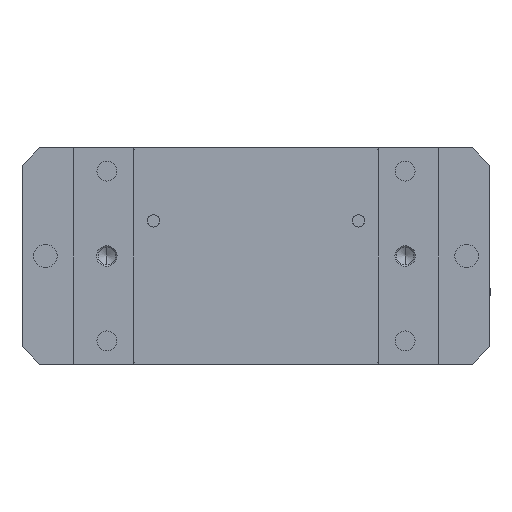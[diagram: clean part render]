
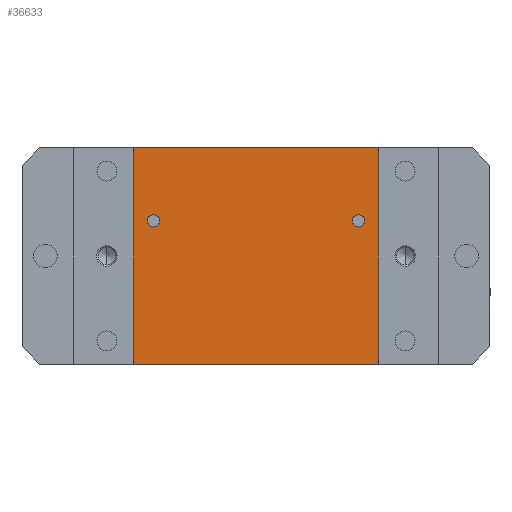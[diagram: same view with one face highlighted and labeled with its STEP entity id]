
A CAD part, front view. The second image highlights one B-rep face of the part: STEP entity #36633.
In plain terms, the highlighted planar face has unit normal (0, -1, 0).
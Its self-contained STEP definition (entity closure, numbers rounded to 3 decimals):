
#116 = CARTESIAN_POINT ( 'NONE',  ( -35., -30., 12. ) ) ;
#222 = DIRECTION ( 'NONE',  ( 0., 0., -1. ) ) ;
#329 = CARTESIAN_POINT ( 'NONE',  ( 35., -30., 9.9 ) ) ;
#522 = AXIS2_PLACEMENT_3D ( 'NONE', #46987, #23637, #222 ) ;
#629 = ORIENTED_EDGE ( 'NONE', *, *, #35697, .T. ) ;
#1421 = AXIS2_PLACEMENT_3D ( 'NONE', #7368, #34621, #11282 ) ;
#2221 = FACE_OUTER_BOUND ( 'NONE', #46229, .T. ) ;
#2375 = CARTESIAN_POINT ( 'NONE',  ( -41., -30., -37. ) ) ;
#2831 = ORIENTED_EDGE ( 'NONE', *, *, #29768, .T. ) ;
#3043 = CARTESIAN_POINT ( 'NONE',  ( -42., -30., 37. ) ) ;
#3654 = ORIENTED_EDGE ( 'NONE', *, *, #20491, .F. ) ;
#4041 = DIRECTION ( 'NONE',  ( 0., 0., -1. ) ) ;
#4266 = LINE ( 'NONE', #17406, #36616 ) ;
#5324 = VECTOR ( 'NONE', #22271, 1000. ) ;
#5585 = ORIENTED_EDGE ( 'NONE', *, *, #42967, .T. ) ;
#5721 = CARTESIAN_POINT ( 'NONE',  ( -41., -30., -37. ) ) ;
#7123 = VERTEX_POINT ( 'NONE', #36574 ) ;
#7156 = DIRECTION ( 'NONE',  ( 0., 0., -1. ) ) ;
#7368 = CARTESIAN_POINT ( 'NONE',  ( 35., -30., 12. ) ) ;
#7411 = CARTESIAN_POINT ( 'NONE',  ( 41., -30., 37. ) ) ;
#8671 = CARTESIAN_POINT ( 'NONE',  ( -35., -30., 9.9 ) ) ;
#9874 = VERTEX_POINT ( 'NONE', #33173 ) ;
#10607 = VERTEX_POINT ( 'NONE', #329 ) ;
#11282 = DIRECTION ( 'NONE',  ( 0., 0., -1. ) ) ;
#13170 = CARTESIAN_POINT ( 'NONE',  ( 42., -30., -36. ) ) ;
#13899 = CIRCLE ( 'NONE', #39308, 2.1 ) ;
#15009 = VERTEX_POINT ( 'NONE', #49829 ) ;
#16250 = DIRECTION ( 'NONE',  ( 1., 0., 0. ) ) ;
#16508 = CARTESIAN_POINT ( 'NONE',  ( 35., -30., 12. ) ) ;
#16607 = VECTOR ( 'NONE', #48634, 1000. ) ;
#17200 = CIRCLE ( 'NONE', #522, 2.1 ) ;
#17234 = EDGE_CURVE ( 'NONE', #25942, #41088, #45624, .T. ) ;
#17406 = CARTESIAN_POINT ( 'NONE',  ( 42., -30., -36. ) ) ;
#17424 = LINE ( 'NONE', #3043, #46106 ) ;
#18137 = EDGE_LOOP ( 'NONE', ( #26042, #2831 ) ) ;
#18168 = LINE ( 'NONE', #25733, #27333 ) ;
#19126 = LINE ( 'NONE', #2375, #38637 ) ;
#19129 = VECTOR ( 'NONE', #16250, 1000. ) ;
#19504 = VERTEX_POINT ( 'NONE', #39189 ) ;
#19611 = VERTEX_POINT ( 'NONE', #8671 ) ;
#19625 = DIRECTION ( 'NONE',  ( 0., 1., 0. ) ) ;
#19795 = CIRCLE ( 'NONE', #48526, 2.1 ) ;
#20235 = EDGE_LOOP ( 'NONE', ( #34141, #629 ) ) ;
#20357 = LINE ( 'NONE', #35667, #19129 ) ;
#20416 = DIRECTION ( 'NONE',  ( 0., 0., -1. ) ) ;
#20491 = EDGE_CURVE ( 'NONE', #38996, #9874, #4266, .T. ) ;
#21581 = CARTESIAN_POINT ( 'NONE',  ( -42., -30., 36. ) ) ;
#21690 = AXIS2_PLACEMENT_3D ( 'NONE', #42991, #19625, #46912 ) ;
#21778 = FACE_BOUND ( 'NONE', #18137, .T. ) ;
#22271 = DIRECTION ( 'NONE',  ( 0.707, 0., 0.707 ) ) ;
#22794 = ORIENTED_EDGE ( 'NONE', *, *, #17234, .F. ) ;
#23637 = DIRECTION ( 'NONE',  ( 0., 1., 0. ) ) ;
#24780 = CIRCLE ( 'NONE', #1421, 2.1 ) ;
#25215 = VERTEX_POINT ( 'NONE', #39052 ) ;
#25733 = CARTESIAN_POINT ( 'NONE',  ( -42., -30., -37. ) ) ;
#25796 = DIRECTION ( 'NONE',  ( -0.707, 0., 0.707 ) ) ;
#25942 = VERTEX_POINT ( 'NONE', #21581 ) ;
#26042 = ORIENTED_EDGE ( 'NONE', *, *, #38193, .T. ) ;
#27333 = VECTOR ( 'NONE', #29644, 1000. ) ;
#27458 = DIRECTION ( 'NONE',  ( 0., 1., 0. ) ) ;
#29063 = CARTESIAN_POINT ( 'NONE',  ( 35., -30., 14.1 ) ) ;
#29207 = ORIENTED_EDGE ( 'NONE', *, *, #36023, .T. ) ;
#29587 = PLANE ( 'NONE',  #21690 ) ;
#29644 = DIRECTION ( 'NONE',  ( 1., 0., 0. ) ) ;
#29768 = EDGE_CURVE ( 'NONE', #38019, #10607, #19795, .T. ) ;
#30128 = CARTESIAN_POINT ( 'NONE',  ( -42., -30., 36. ) ) ;
#31353 = EDGE_CURVE ( 'NONE', #42154, #15009, #19126, .T. ) ;
#31925 = VECTOR ( 'NONE', #38594, 1000. ) ;
#32116 = FACE_BOUND ( 'NONE', #20235, .T. ) ;
#33173 = CARTESIAN_POINT ( 'NONE',  ( 41., -30., -37. ) ) ;
#34141 = ORIENTED_EDGE ( 'NONE', *, *, #43600, .T. ) ;
#34621 = DIRECTION ( 'NONE',  ( 0., 1., 0. ) ) ;
#35667 = CARTESIAN_POINT ( 'NONE',  ( -42., -30., 37. ) ) ;
#35697 = EDGE_CURVE ( 'NONE', #7123, #19611, #13899, .T. ) ;
#36023 = EDGE_CURVE ( 'NONE', #42154, #9874, #18168, .T. ) ;
#36574 = CARTESIAN_POINT ( 'NONE',  ( -35., -30., 14.1 ) ) ;
#36616 = VECTOR ( 'NONE', #44697, 1000. ) ;
#36633 = ADVANCED_FACE ( 'NONE', ( #2221, #21778, #32116 ), #29587, .F. ) ;
#37948 = ORIENTED_EDGE ( 'NONE', *, *, #31353, .F. ) ;
#38019 = VERTEX_POINT ( 'NONE', #29063 ) ;
#38073 = ORIENTED_EDGE ( 'NONE', *, *, #41120, .F. ) ;
#38193 = EDGE_CURVE ( 'NONE', #10607, #38019, #24780, .T. ) ;
#38562 = EDGE_CURVE ( 'NONE', #25942, #15009, #17424, .T. ) ;
#38594 = DIRECTION ( 'NONE',  ( 0.707, 0., -0.707 ) ) ;
#38637 = VECTOR ( 'NONE', #25796, 1000. ) ;
#38996 = VERTEX_POINT ( 'NONE', #13170 ) ;
#39052 = CARTESIAN_POINT ( 'NONE',  ( 42., -30., 36. ) ) ;
#39189 = CARTESIAN_POINT ( 'NONE',  ( 41., -30., 37. ) ) ;
#39308 = AXIS2_PLACEMENT_3D ( 'NONE', #116, #27458, #4041 ) ;
#39779 = LINE ( 'NONE', #44710, #16607 ) ;
#41007 = EDGE_CURVE ( 'NONE', #19504, #25215, #42336, .T. ) ;
#41088 = VERTEX_POINT ( 'NONE', #43201 ) ;
#41120 = EDGE_CURVE ( 'NONE', #41088, #19504, #20357, .T. ) ;
#42154 = VERTEX_POINT ( 'NONE', #5721 ) ;
#42336 = LINE ( 'NONE', #7411, #31925 ) ;
#42967 = EDGE_CURVE ( 'NONE', #38996, #25215, #39779, .T. ) ;
#42991 = CARTESIAN_POINT ( 'NONE',  ( -42., -30., 37. ) ) ;
#43201 = CARTESIAN_POINT ( 'NONE',  ( -41., -30., 37. ) ) ;
#43600 = EDGE_CURVE ( 'NONE', #19611, #7123, #17200, .T. ) ;
#43795 = DIRECTION ( 'NONE',  ( 0., 1., 0. ) ) ;
#44517 = ORIENTED_EDGE ( 'NONE', *, *, #38562, .T. ) ;
#44697 = DIRECTION ( 'NONE',  ( -0.707, 0., -0.707 ) ) ;
#44710 = CARTESIAN_POINT ( 'NONE',  ( 42., -30., 37. ) ) ;
#45624 = LINE ( 'NONE', #30128, #5324 ) ;
#46106 = VECTOR ( 'NONE', #7156, 1000. ) ;
#46229 = EDGE_LOOP ( 'NONE', ( #3654, #5585, #48955, #38073, #22794, #44517, #37948, #29207 ) ) ;
#46912 = DIRECTION ( 'NONE',  ( 0., 0., 1. ) ) ;
#46987 = CARTESIAN_POINT ( 'NONE',  ( -35., -30., 12. ) ) ;
#48526 = AXIS2_PLACEMENT_3D ( 'NONE', #16508, #43795, #20416 ) ;
#48634 = DIRECTION ( 'NONE',  ( 0., 0., 1. ) ) ;
#48955 = ORIENTED_EDGE ( 'NONE', *, *, #41007, .F. ) ;
#49829 = CARTESIAN_POINT ( 'NONE',  ( -42., -30., -36. ) ) ;
